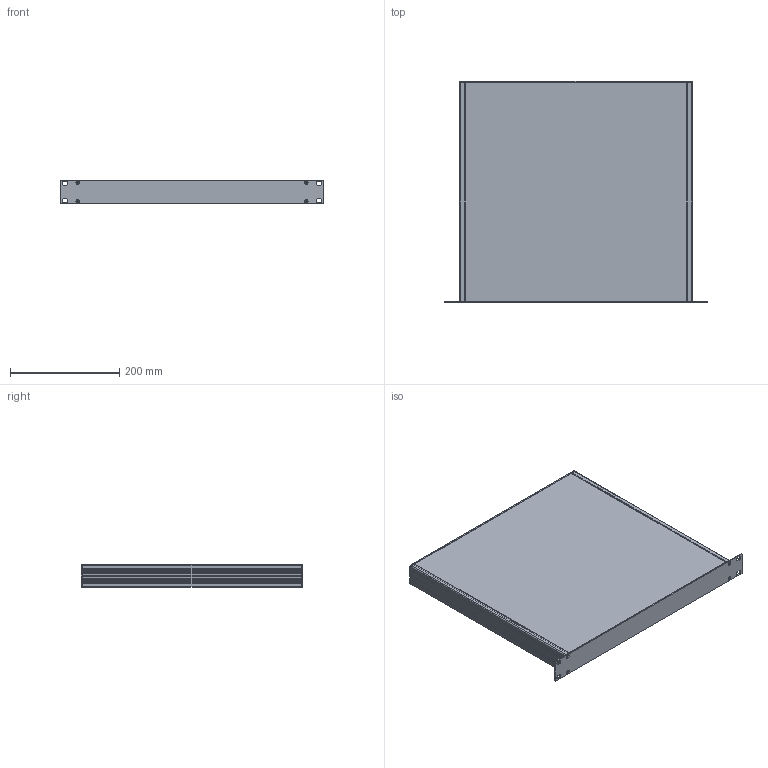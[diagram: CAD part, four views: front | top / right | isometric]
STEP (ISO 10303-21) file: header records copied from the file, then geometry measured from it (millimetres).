
FILE_DESCRIPTION(/* description */ (''),/* implementation_level */ '2;1');
FILE_NAME(/* name */ '//diskstation/Kunden/Gehäuse/Gehäuse/1HE/step/400.step',/* time_stamp */ '2022-02-17T15:24:45+01:00',/* author */ (''),/* organization */ (''),/* preprocessor_version */ 'ST-DEVELOPER v18.1',/* originating_system */ 'Autodesk Translation Framework v10.10.0.1391',/* authorisation */ '');
FILE_SCHEMA (('AUTOMOTIVE_DESIGN { 1 0 10303 214 3 1 1 }'));
Length unit declared in the file: millimetre
Products named in the file (7): 1HE Gehäuse mit Parameter (Seitenteilprofil); Frontplatte; Gehäuse; Seitenteilprofil; Rückplatte; Deckel; Bodenplatte
Assembly tree (7 placements, depth 3):
  1HE Gehäuse mit Parameter (Seitenteilprofil)
    Frontplatte
    Gehäuse
      Seitenteilprofil  x2
      Rückplatte
      Deckel
      Bodenplatte
Bounding box: 483 x 405 x 43.6 mm (x, y, z)
Volume: 1050558.5 mm3; surface area: 892293.5 mm2
Topology: 6 solids, 6 shells, 252 faces, 712 edges, 472 vertices
Faces by surface type: plane 158, cylinder 86, cone 8
Full cylindrical faces by diameter (mm): 3 x4, 3.2 x8
Entity records: 5633 total; most frequent: CARTESIAN_POINT 956, DIRECTION 952, ORIENTED_EDGE 932, EDGE_CURVE 466, LINE 344, VECTOR 344, VERTEX_POINT 308, AXIS2_PLACEMENT_3D 304
